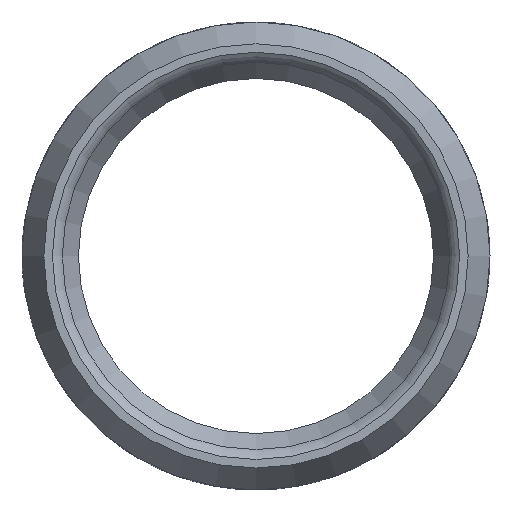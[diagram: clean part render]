
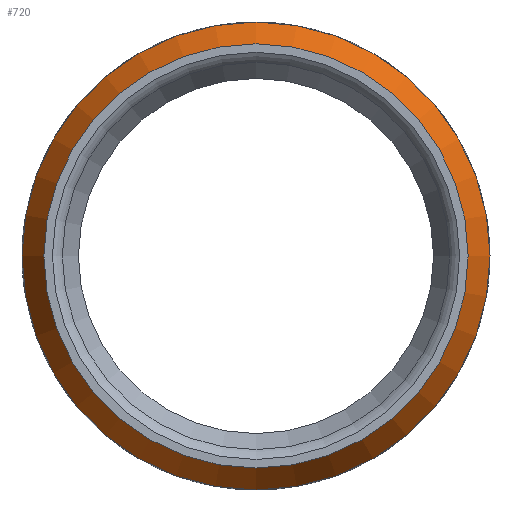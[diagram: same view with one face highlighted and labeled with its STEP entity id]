
A CAD part, top view. The second image highlights one B-rep face of the part: STEP entity #720.
In plain terms, the highlighted conical face has half-angle 30 degrees and reference radius 40.803 mm.
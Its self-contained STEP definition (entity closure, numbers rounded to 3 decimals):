
#122=LINE('',#1240,#186);
#186=VECTOR('',#1010,40.804);
#192=CONICAL_SURFACE('',#804,40.804,0.524);
#229=FACE_OUTER_BOUND('',#268,.T.);
#268=EDGE_LOOP('',(#678,#679,#680,#681,#682));
#275=CIRCLE('',#744,38.53);
#276=CIRCLE('',#746,42.5);
#277=CIRCLE('',#747,42.5);
#303=VERTEX_POINT('',#1027);
#304=VERTEX_POINT('',#1030);
#305=VERTEX_POINT('',#1031);
#375=EDGE_CURVE('',#303,#303,#275,.F.);
#376=EDGE_CURVE('',#304,#305,#276,.T.);
#377=EDGE_CURVE('',#305,#304,#277,.T.);
#472=EDGE_CURVE('',#305,#303,#122,.T.);
#678=ORIENTED_EDGE('',*,*,#376,.F.);
#679=ORIENTED_EDGE('',*,*,#377,.F.);
#680=ORIENTED_EDGE('',*,*,#472,.T.);
#681=ORIENTED_EDGE('',*,*,#375,.T.);
#682=ORIENTED_EDGE('',*,*,#472,.F.);
#720=ADVANCED_FACE('',(#229),#192,.T.);
#744=AXIS2_PLACEMENT_3D('',#1028,#826,#827);
#746=AXIS2_PLACEMENT_3D('',#1032,#830,#831);
#747=AXIS2_PLACEMENT_3D('',#1033,#832,#833);
#804=AXIS2_PLACEMENT_3D('',#1239,#1008,#1009);
#826=DIRECTION('center_axis',(0.,0.,1.));
#827=DIRECTION('ref_axis',(0.,1.,0.));
#830=DIRECTION('center_axis',(0.,0.,-1.));
#831=DIRECTION('ref_axis',(1.,0.,0.));
#832=DIRECTION('center_axis',(0.,0.,-1.));
#833=DIRECTION('ref_axis',(1.,0.,0.));
#1008=DIRECTION('center_axis',(0.,0.,-1.));
#1009=DIRECTION('ref_axis',(0.,1.,0.));
#1010=DIRECTION('',(0.,0.5,0.866));
#1027=CARTESIAN_POINT('',(-5.152,-7.756,210.923));
#1028=CARTESIAN_POINT('Origin',(-5.152,30.773,210.923));
#1030=CARTESIAN_POINT('',(-47.652,30.773,204.047));
#1031=CARTESIAN_POINT('',(-5.152,-11.727,204.047));
#1032=CARTESIAN_POINT('Origin',(-5.152,30.773,204.047));
#1033=CARTESIAN_POINT('Origin',(-5.152,30.773,204.047));
#1239=CARTESIAN_POINT('Origin',(-5.152,30.773,206.985));
#1240=CARTESIAN_POINT('',(-5.152,-10.03,206.985));
